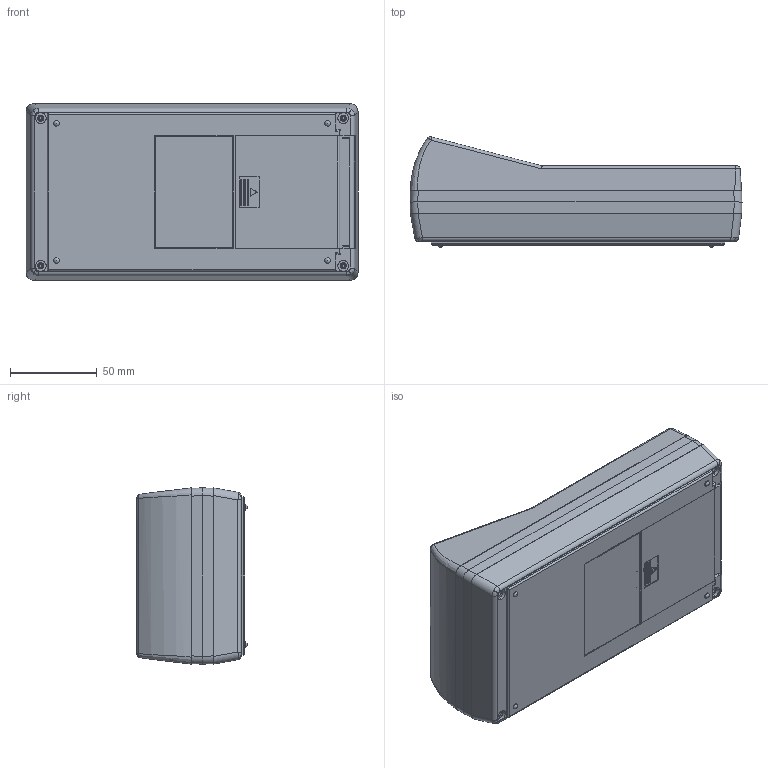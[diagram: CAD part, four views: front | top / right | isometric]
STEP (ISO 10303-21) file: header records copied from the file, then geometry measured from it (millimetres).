
FILE_DESCRIPTION (( 'STEP AP214' ), '1' );
FILE_NAME ('90-52-4A-E-R.STEP', '2019-12-01T15:52:50', ( 'Rudy' ), ( '' ), 'SwSTEP 2.0', 'SolidWorks 2014', '' );
FILE_SCHEMA (( 'AUTOMOTIVE_DESIGN' ));
Length unit declared in the file: millimetre
Products named in the file (6): 4AAdoor; 100-06 EXPANDER; 100 bessel; 100 Top Angled LCD; 100-02 BOT-4AA; 90-52-4A-E-R
Assembly tree (5 placements, depth 2):
  90-52-4A-E-R
    100-02 BOT-4AA
    100 Top Angled LCD
    100 bessel
    100-06 EXPANDER
    4AAdoor
Bounding box: 191 x 63.49 x 101.4 mm (x, y, z)
Volume: 152597.3 mm3; surface area: 158878.8 mm2
Topology: 5 solids, 5 shells, 975 faces, 2623 edges, 1686 vertices
Faces by surface type: plane 659, cylinder 236, cone 40, bspline 24, torus 12, sphere 4
Entity records: 31685 total; most frequent: CARTESIAN_POINT 7425, ORIENTED_EDGE 5210, DIRECTION 4682, EDGE_CURVE 2605, LINE 1958, VECTOR 1958, VERTEX_POINT 1678, AXIS2_PLACEMENT_3D 1362
